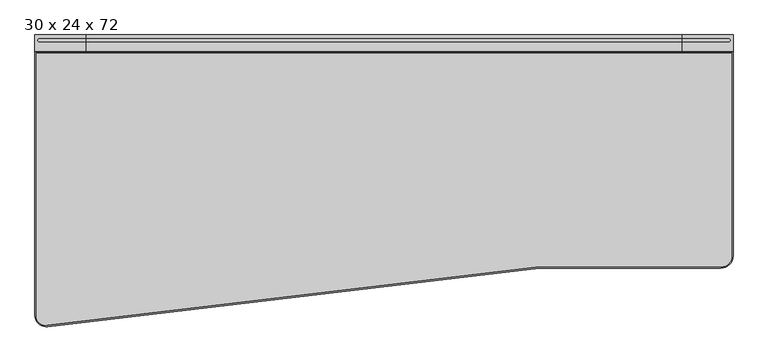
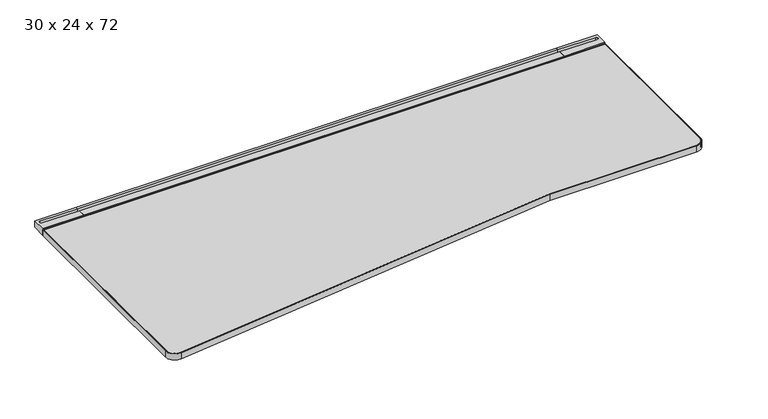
"""IFC4 building model written with IfcOpenShell, lengths in millimetres: furniture geometry, Steelcase - C Scape - Desking - Left Hand Transition : 30 x 24 x 72."""

from ifc_helpers import new_model, si_unit, point, frame, frame_2d, origin, place, context, project, spatial, polyline, circle_curve, trimmed, segment, composite_curve, outline, extrude, faceted_brep, source, transform, mapped, element, save
from ifc_brep_helpers import plane_surface, cylinder_surface, revolved_surface, advanced_brep


def furniture_30_x_24_x_72_7be18f01(model_context):
    return source(origin(), model_context, "Body", "SolidModel", [
        advanced_brep(
        [(134.6072876, -45.3135132, 703.3768), (134.6072876, -4.0331902, 703.3768), (134.6072876, -3.2278472, 705.1038636), (134.6072876, 0.0, 705.1038636), (134.6072876, 0.0, 725.932), (134.6072876, -8.5111084, 725.932), (134.6072876, -8.5111084, 713.486), (134.6072876, -19.3290527, 713.486), (134.6072876, -19.3290527, 725.932), (134.6072876, -42.7750923, 725.932), (134.6072876, -42.7750923, 722.4268341), (134.6072876, -45.3135132, 722.4268341), (1.5875, -45.3135132, 703.3768), (1.5875, -45.3135132, 722.4268341), (1.5875, -42.7750923, 722.4268341), (1.5875, -42.7750923, 725.932), (1.5875, 0.0, 725.932), (1.5875, 0.0, 705.1038636), (1.5875, -3.2278472, 705.1038636), (1.5875, -4.0331902, 703.3768), (13.3495728, -19.3290527, 725.932), (13.3495728, -8.5111084, 725.932), (13.3495728, -8.5111084, 713.486), (13.3495728, -19.3290527, 713.486)],
        [
            (0, 1),
            (1, 2),
            (2, 3),
            (3, 4),
            (4, 5),
            (5, 6),
            (6, 7),
            (7, 8),
            (8, 9),
            (9, 10),
            (10, 11),
            (11, 0),
            (12, 13),
            (13, 14),
            (14, 15),
            (15, 16),
            (16, 17),
            (17, 18),
            (18, 19),
            (19, 12),
            (0, 12),
            (19, 1),
            (18, 2),
            (17, 3),
            (16, 4),
            (15, 9),
            (8, 20),
            (20, 21, circle_curve(frame((13.3495728, -13.9200806, 725.932), z_axis=(0.0, 0.0, -1.0), x_axis=(1.0, 0.0, 0.0)), 5.4089722)),
            (21, 5),
            (14, 10),
            (13, 11),
            (6, 22),
            (22, 23, circle_curve(frame((13.3495728, -13.9200806, 713.486), z_axis=(0.0, 0.0, 1.0), x_axis=(1.0, 0.0, 0.0)), 5.4089722)),
            (23, 7),
            (21, 22),
            (20, 23),
        ],
        [
            plane_surface(frame((134.6072876, -45.3135132, 703.3768), z_axis=(1.0, 0.0, 0.0), x_axis=(0.0, 1.0, 0.0))),
            plane_surface(frame((1.5875, -45.3135132, 703.3768), z_axis=(-1.0, 0.0, 0.0), x_axis=(0.0, -1.0, 0.0))),
            plane_surface(frame((134.6072876, -45.3135132, 703.3768), z_axis=(0.0, 0.0, -1.0), x_axis=(-1.0, 0.0, 0.0))),
            plane_surface(frame((134.6072876, -4.0331902, 703.3768), z_axis=(0.0, 0.9063077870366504, -0.4226182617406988), x_axis=(-1.0, 0.0, 0.0))),
            plane_surface(frame((134.6072876, -3.2278472, 705.1038636), z_axis=(0.0, 0.0, -1.0), x_axis=(-1.0, 0.0, 0.0))),
            plane_surface(frame((134.6072876, 0.0, 705.1038636), z_axis=(0.0, 1.0, 0.0), x_axis=(-1.0, 0.0, 0.0))),
            plane_surface(frame((134.6072876, 0.0, 725.932), z_axis=(0.0, 0.0, 1.0), x_axis=(-1.0, 0.0, 0.0))),
            plane_surface(frame((134.6072876, -42.7750923, 725.932), z_axis=(0.0, -1.0, 0.0), x_axis=(-1.0, 0.0, 0.0))),
            plane_surface(frame((134.6072876, -42.7750923, 722.4268341), z_axis=(0.0, 0.0, 1.0), x_axis=(-1.0, 0.0, 0.0))),
            plane_surface(frame((134.6072876, -45.3135132, 722.4268341), z_axis=(0.0, -1.0, 0.0), x_axis=(-1.0, 0.0, 0.0))),
            plane_surface(frame((13.3495728, -8.5111084, 713.486), z_axis=(0.0, 0.0, 1.0), x_axis=(1.0, 0.0, 0.0))),
            plane_surface(frame((134.6072876, -8.5111084, 731.2180541), z_axis=(0.0, -1.0, 0.0), x_axis=(0.0, 0.0, -1.0))),
            revolved_surface(polyline([(18.758545, -13.9200806, 725.932), (18.758545, -13.9200806, 713.486)]), (13.3495728, -13.9200806, 713.486), (0.0, 0.0, 1.0)),
            plane_surface(frame((13.3495728, -19.3290527, 731.2180541), z_axis=(0.0, 1.0, 0.0), x_axis=(0.0, 0.0, -1.0))),
        ],
        [
            (0, [[1, 2, 3, 4, 5, 6, 7, 8, 9, 10, 11, 12]]),
            (1, [[13, 14, 15, 16, 17, 18, 19, 20]]),
            (2, [[-1, 21, -20, 22]]),
            (3, [[-2, -22, -19, 23]]),
            (4, [[-3, -23, -18, 24]]),
            (5, [[-4, -24, -17, 25]]),
            (6, [[-16, 26, -9, 27, 28, 29, -5, -25]]),
            (7, [[-10, -26, -15, 30]]),
            (8, [[-11, -30, -14, 31]]),
            (9, [[-12, -31, -13, -21]]),
            (10, [[32, 33, 34, -7]]),
            (11, [[-32, -6, -29, 35]]),
            (12, [[-33, -35, -28, 36]]),
            (13, [[-34, -36, -27, -8]]),
        ],
    ),
        faceted_brep([(20.6382632, -565.0752923, 700.7093833), (34.9133728, -565.0752923, 693.4200291), (116.3525879, -565.0752923, 693.4200291), (118.9731301, -565.0752923, 679.3263935), (134.6072876, -565.0752923, 679.3263935), (134.6072876, -565.0752923, 703.3768), (20.6382632, -565.0752923, 703.3768), (20.6382632, -4.0331902, 700.7093833), (20.6382632, -4.0331902, 703.3768), (134.6072876, -4.0331902, 703.3768), (134.6072876, -4.0331902, 629.3866), (128.2588347, -4.0331902, 629.3866), (116.3525879, -4.0331902, 693.4200291), (34.9133728, -4.0331902, 693.4200291), (128.2588347, -364.1172546, 629.3866), (121.1384051, -376.5599397, 667.6812472), (134.6072876, -364.1172546, 629.3866), (134.6072876, -376.5599397, 667.6812472)], [[[0, 1, 2, 3, 4, 5, 6]], [[7, 8, 9, 10, 11, 12, 13]], [[1, 0, 7, 13]], [[2, 1, 13, 12]], [[12, 11, 14, 15, 3, 2]], [[11, 10, 16, 14]], [[10, 9, 5, 4, 17, 16]], [[6, 5, 9, 8]], [[0, 6, 8, 7]], [[15, 17, 4, 3]], [[17, 15, 14, 16]]]),
        extrude(outline(composite_curve([segment(polyline([(-293.5216187, 657.3775839), (-559.0022133, 680.1371551)]), True, "CONTINUOUS"), segment(trimmed(circle_curve(frame_2d((-558.7581271, 682.9843154)), 2.8576039), [point((-559.0022133, 680.1371551))], [point((-561.5383043, 682.3236226))], False, "CARTESIAN"), True, "CONTINUOUS"), segment(polyline([(-561.5383043, 682.3236226), (-566.0887542, 701.4717905), (-557.8334441, 701.4717905), (-557.8334441, 703.3768), (-442.6683806, 703.3768), (-442.6683806, 696.3917953), (-318.2108611, 696.3917953), (-318.2108611, 703.3768), (-293.5216187, 703.3768), (-293.5216187, 657.3775839)]), True, "CONTINUOUS")], self_intersect=False)), frame((877.824, 0.0, 0.0), z_axis=(1.0, 0.0, 0.0), x_axis=(0.0, 1.0, 0.0)), (0.0, 0.0, 1.0), 73.152),
        advanced_brep(
        [(1694.1927124, -45.3135132, 703.3768), (1694.1927124, -45.3135132, 722.4268341), (1694.1927124, -42.7750923, 722.4268341), (1694.1927124, -42.7750923, 725.932), (1694.1927124, -19.3290527, 725.932), (1694.1927124, -19.3290527, 713.486), (1694.1927124, -8.5111084, 713.486), (1694.1927124, -8.5111084, 725.932), (1694.1927124, 0.0, 725.932), (1694.1927124, 0.0, 705.1038636), (1694.1927124, -3.2278472, 705.1038636), (1694.1927124, -4.0331902, 703.3768), (1827.2125, -45.3135132, 703.3768), (1827.2125, -4.0331902, 703.3768), (1827.2125, -3.2278472, 705.1038636), (1827.2125, 0.0, 705.1038636), (1827.2125, 0.0, 725.932), (1827.2125, -42.7750923, 725.932), (1827.2125, -42.7750923, 722.4268341), (1827.2125, -45.3135132, 722.4268341), (1815.4504272, -8.5111084, 725.932), (1815.4504272, -19.3290527, 725.932), (1815.4504272, -19.3290527, 713.486), (1815.4504272, -8.5111084, 713.486)],
        [
            (0, 1),
            (1, 2),
            (2, 3),
            (3, 4),
            (4, 5),
            (5, 6),
            (6, 7),
            (7, 8),
            (8, 9),
            (9, 10),
            (10, 11),
            (11, 0),
            (12, 13),
            (13, 14),
            (14, 15),
            (15, 16),
            (16, 17),
            (17, 18),
            (18, 19),
            (19, 12),
            (11, 13),
            (12, 0),
            (10, 14),
            (9, 15),
            (8, 16),
            (7, 20),
            (20, 21, circle_curve(frame((1815.4504272, -13.9200806, 725.932), z_axis=(0.0, 0.0, -1.0), x_axis=(-1.0, 0.0, 0.0)), 5.4089722)),
            (21, 4),
            (3, 17),
            (2, 18),
            (1, 19),
            (5, 22),
            (22, 23, circle_curve(frame((1815.4504272, -13.9200806, 713.486), z_axis=(0.0, 0.0, 1.0), x_axis=(-1.0, 0.0, 0.0)), 5.4089722)),
            (23, 6),
            (23, 20),
            (22, 21),
        ],
        [
            plane_surface(frame((1694.1927124, -45.3135132, 703.3768), z_axis=(-1.0, 0.0, 0.0), x_axis=(0.0, 1.0, 0.0))),
            plane_surface(frame((1827.2125, -45.3135132, 703.3768), z_axis=(1.0, 0.0, 0.0), x_axis=(0.0, -1.0, 0.0))),
            plane_surface(frame((1694.1927124, -45.3135132, 703.3768), z_axis=(0.0, 0.0, -1.0), x_axis=(1.0, 0.0, 0.0))),
            plane_surface(frame((1694.1927124, -4.0331902, 703.3768), z_axis=(0.0, 0.9063077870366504, -0.4226182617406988), x_axis=(1.0, 0.0, 0.0))),
            plane_surface(frame((1694.1927124, -3.2278472, 705.1038636), z_axis=(0.0, 0.0, -1.0), x_axis=(1.0, 0.0, 0.0))),
            plane_surface(frame((1694.1927124, 0.0, 705.1038636), z_axis=(0.0, 1.0, 0.0), x_axis=(1.0, 0.0, 0.0))),
            plane_surface(frame((1694.1927124, 0.0, 725.932), z_axis=(0.0, 0.0, 1.0), x_axis=(1.0, 0.0, 0.0))),
            plane_surface(frame((1694.1927124, -42.7750923, 725.932), z_axis=(0.0, -1.0, 0.0), x_axis=(1.0, 0.0, 0.0))),
            plane_surface(frame((1694.1927124, -42.7750923, 722.4268341), z_axis=(0.0, 0.0, 1.0), x_axis=(1.0, 0.0, 0.0))),
            plane_surface(frame((1694.1927124, -45.3135132, 722.4268341), z_axis=(0.0, -1.0, 0.0), x_axis=(1.0, 0.0, 0.0))),
            plane_surface(frame((1815.4504272, -8.5111084, 713.486), z_axis=(0.0, 0.0, 1.0), x_axis=(-1.0, 0.0, 0.0))),
            plane_surface(frame((1694.1927124, -8.5111084, 731.2180541), z_axis=(0.0, -1.0, 0.0), x_axis=(0.0, 0.0, -1.0))),
            revolved_surface(polyline([(1810.0414549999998, -13.9200806, 725.932), (1810.0414549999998, -13.9200806, 713.486)]), (1815.4504272, -13.9200806, 713.486), (0.0, 0.0, 1.0)),
            plane_surface(frame((1815.4504272, -19.3290527, 731.2180541), z_axis=(0.0, 1.0, 0.0), x_axis=(0.0, 0.0, -1.0))),
        ],
        [
            (0, [[1, 2, 3, 4, 5, 6, 7, 8, 9, 10, 11, 12]]),
            (1, [[13, 14, 15, 16, 17, 18, 19, 20]]),
            (2, [[21, -13, 22, -12]]),
            (3, [[23, -14, -21, -11]]),
            (4, [[24, -15, -23, -10]]),
            (5, [[25, -16, -24, -9]]),
            (6, [[-25, -8, 26, 27, 28, -4, 29, -17]]),
            (7, [[30, -18, -29, -3]]),
            (8, [[31, -19, -30, -2]]),
            (9, [[-22, -20, -31, -1]]),
            (10, [[-6, 32, 33, 34]]),
            (11, [[35, -26, -7, -34]]),
            (12, [[36, -27, -35, -33]]),
            (13, [[-5, -28, -36, -32]]),
        ],
    ),
        faceted_brep([(1808.1617368, -565.0752923, 700.7093833), (1808.1617368, -565.0752923, 703.3768), (1694.1927124, -565.0752923, 703.3768), (1694.1927124, -565.0752923, 679.3263935), (1709.8268699, -565.0752923, 679.3263935), (1712.4474121, -565.0752923, 693.4200291), (1793.8866272, -565.0752923, 693.4200291), (1808.1617368, -4.0331902, 700.7093833), (1793.8866272, -4.0331902, 693.4200291), (1712.4474121, -4.0331902, 693.4200291), (1700.5411653, -4.0331902, 629.3866), (1694.1927124, -4.0331902, 629.3866), (1694.1927124, -4.0331902, 703.3768), (1808.1617368, -4.0331902, 703.3768), (1707.6615949, -376.5599397, 667.6812472), (1700.5411653, -364.1172546, 629.3866), (1694.1927124, -364.1172546, 629.3866), (1694.1927124, -376.5599397, 667.6812472)], [[[0, 1, 2, 3, 4, 5, 6]], [[7, 8, 9, 10, 11, 12, 13]], [[6, 8, 7, 0]], [[5, 9, 8, 6]], [[9, 5, 4, 14, 15, 10]], [[10, 15, 16, 11]], [[11, 16, 17, 3, 2, 12]], [[1, 13, 12, 2]], [[0, 7, 13, 1]], [[14, 4, 3, 17]], [[17, 16, 15, 14]]]),
        extrude(outline(polyline([(-8.5111084, 725.932), (0.0, 725.932), (0.0, 705.1038636), (-3.2278472, 705.1038636), (-4.0331902, 703.3768), (-45.3135132, 703.3768), (-45.3135132, 722.4268341), (-42.7750923, 722.4268341), (-42.7750923, 725.932), (-19.3290527, 725.932), (-19.3290527, 713.486), (-8.5111084, 713.486), (-8.5111084, 725.932)])), frame((134.6072876, 0.0, 0.0), z_axis=(1.0, 0.0, 0.0), x_axis=(0.0, 1.0, 0.0)), (0.0, 0.0, 1.0), 1559.5854248),
        extrude(outline(polyline([(1694.1927124, -4.0331902), (1694.1927124, -293.5216187), (134.6072876, -293.5216187), (134.6072876, -4.0331902), (1694.1927124, -4.0331902)])), frame((0.0, 0.0, 629.3866), z_axis=(0.0, 0.0, 1.0), x_axis=(1.0, 0.0, 0.0)), (0.0, 0.0, 1.0), 73.9902),
        advanced_brep(
        [(1824.1645, -48.3660689, 723.9), (4.6355, -48.3660689, 723.9), (4.6355, -734.677348, 723.9), (33.9511745, -759.7737122, 723.9), (1320.7997595, -606.5490234, 723.9), (1795.4625, -606.5490234, 723.9), (1824.1615234, -577.85, 723.9), (1824.1645, -48.3660689, 703.3768), (1824.1645, -577.85, 703.3768), (1795.4625, -606.5490234, 703.3768), (1320.7997595, -606.5490234, 703.3768), (33.9511745, -759.7737122, 703.3768), (4.6355, -734.677348, 703.3768), (4.6355, -48.3660689, 703.3768)],
        [
            (0, 1),
            (1, 2),
            (2, 3, circle_curve(frame((30.0355, -734.677348, 723.9), z_axis=(0.0, 0.0, 1.0), x_axis=(-1.0, 0.0, 0.0)), 25.4)),
            (3, 4),
            (4, 5),
            (5, 6, circle_curve(frame((1795.4625, -577.85, 723.9), z_axis=(0.0, 0.0, 1.0), x_axis=(-1.0, 0.0, 0.0)), 28.6990234)),
            (6, 0),
            (7, 8),
            (8, 9, circle_curve(frame((1795.4625, -577.85, 703.3768), z_axis=(0.0, 0.0, -1.0), x_axis=(-1.0, 0.0, 0.0)), 28.6990234)),
            (9, 10),
            (10, 11),
            (11, 12, circle_curve(frame((30.0355, -734.677348, 703.3768), z_axis=(0.0, 0.0, -1.0), x_axis=(-1.0, 0.0, 0.0)), 25.4)),
            (12, 13),
            (13, 7),
            (0, 7),
            (13, 1),
            (12, 2),
            (11, 3),
            (10, 4),
            (9, 5),
            (8, 6),
        ],
        [
            plane_surface(frame((4.6355, -48.3660689, 723.9), z_axis=(0.0, 0.0, 1.0), x_axis=(-1.0, 0.0, 0.0))),
            plane_surface(frame((4.6355, -48.3660689, 703.3768), z_axis=(0.0, 0.0, -1.0), x_axis=(1.0, 0.0, 0.0))),
            plane_surface(frame((1824.1645, -48.3660689, 723.9), z_axis=(0.0, 1.0, 0.0), x_axis=(0.0, 0.0, -1.0))),
            plane_surface(frame((4.6355, -48.3660689, 723.9), z_axis=(-1.0, 0.0, 0.0), x_axis=(0.0, 0.0, -1.0))),
            cylinder_surface(frame((30.0355, -734.677348, 703.3768), z_axis=(0.0, 0.0, 1.0), x_axis=(-1.0, 0.0, 0.0)), 25.4),
            plane_surface(frame((33.9511745, -759.7737122, 723.9), z_axis=(0.11823451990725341, -0.9929856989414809, 0.0), x_axis=(0.0, 0.0, -1.0))),
            plane_surface(frame((1320.7997595, -606.5490234, 723.9), z_axis=(0.0, -1.0, 0.0), x_axis=(0.0, 0.0, -1.0))),
            cylinder_surface(frame((1795.4625, -577.85, 703.3768), z_axis=(0.0, 0.0, 1.0), x_axis=(-1.0, 0.0, 0.0)), 28.6990234),
            plane_surface(frame((1824.1645, -577.85, 723.9), z_axis=(1.0, 0.0, 0.0), x_axis=(0.0, 0.0, -1.0))),
        ],
        [
            (0, [[1, 2, 3, 4, 5, 6, 7]]),
            (1, [[8, 9, 10, 11, 12, 13, 14]]),
            (2, [[-1, 15, -14, 16]]),
            (3, [[-2, -16, -13, 17]]),
            (4, [[-3, -17, -12, 18]]),
            (5, [[-4, -18, -11, 19]]),
            (6, [[-5, -19, -10, 20]]),
            (7, [[-6, -20, -9, 21]]),
            (8, [[-7, -21, -8, -15]]),
        ],
    ),
        advanced_brep(
        [(4.6384766, -48.3660689, 703.3768), (4.6384766, -48.3660689, 723.9), (4.6384766, -733.2875177, 723.9), (4.6384766, -733.2875177, 703.3768), (1.5875, -45.3150923, 723.9), (1.5875, -45.3150923, 703.3768), (1.5875, -733.2875177, 703.3768), (1.5875, -733.2875177, 723.9), (35.2904734, -759.5278717, 703.3768), (35.2904734, -759.5278717, 723.9), (35.7608132, -762.5423763, 723.9), (35.7608132, -762.5423763, 703.3768), (1320.6190784, -606.5490234, 723.9), (1320.6190784, -606.5490234, 703.3768), (1320.8, -609.6, 703.3768), (1827.2125, -45.3150923, 703.3768), (1827.2125, -577.85, 703.3768), (1795.4625, -609.6, 703.3768), (1795.4625, -606.5490234, 703.3768), (1824.1615234, -577.85, 703.3768), (1824.1615234, -48.3660689, 703.3768), (1320.8, -609.6, 723.9), (1795.4625, -609.6, 723.9), (1827.2125, -577.85, 723.9), (1827.2125, -45.3150923, 723.9), (1824.1615234, -48.3660689, 723.9), (1824.1615234, -577.85, 723.9), (1795.4625, -606.5490234, 723.9)],
        [
            (0, 1),
            (1, 2),
            (2, 3),
            (3, 0),
            (4, 5),
            (5, 6),
            (6, 7),
            (7, 4),
            (8, 3, circle_curve(frame((31.1963073, -733.2875177, 703.3768), z_axis=(0.0, 0.0, -1.0), x_axis=(-1.0, 0.0, 0.0)), 26.5578307)),
            (2, 9, circle_curve(frame((31.1963073, -733.2875177, 723.9), z_axis=(0.0, 0.0, 1.0), x_axis=(-1.0, 0.0, 0.0)), 26.5578307)),
            (9, 8),
            (10, 7, circle_curve(frame((31.1963073, -733.2875177, 723.9), z_axis=(0.0, 0.0, -1.0), x_axis=(-1.0, 0.0, 0.0)), 29.6088073)),
            (6, 11, circle_curve(frame((31.1963073, -733.2875177, 703.3768), z_axis=(0.0, 0.0, 1.0), x_axis=(-1.0, 0.0, 0.0)), 29.6088073)),
            (11, 10),
            (9, 12),
            (12, 13),
            (13, 8),
            (14, 11),
            (5, 15),
            (15, 16),
            (16, 17, circle_curve(frame((1795.4625, -577.85, 703.3768), z_axis=(0.0, 0.0, -1.0), x_axis=(0.0, -1.0, 0.0)), 31.75)),
            (17, 14),
            (13, 18),
            (18, 19, circle_curve(frame((1795.4625, -577.85, 703.3768), z_axis=(0.0, 0.0, 1.0), x_axis=(0.0, -1.0, 0.0)), 28.6990234)),
            (19, 20),
            (20, 0),
            (14, 21),
            (21, 10),
            (21, 22),
            (22, 23, circle_curve(frame((1795.4625, -577.85, 723.9), z_axis=(0.0, 0.0, 1.0), x_axis=(0.0, -1.0, 0.0)), 31.75)),
            (23, 24),
            (24, 4),
            (1, 25),
            (25, 26),
            (26, 27, circle_curve(frame((1795.4625, -577.85, 723.9), z_axis=(0.0, 0.0, -1.0), x_axis=(0.0, -1.0, 0.0)), 28.6990234)),
            (27, 12),
            (27, 18),
            (17, 22),
            (26, 19),
            (16, 23),
            (25, 20),
            (15, 24),
        ],
        [
            plane_surface(frame((4.6384766, -48.3660689, 723.9), z_axis=(1.0, 0.0, 0.0), x_axis=(0.0, -1.0, 0.0))),
            plane_surface(frame((1.5875, -45.3150923, 703.3768), z_axis=(-1.0, 0.0, 0.0), x_axis=(0.0, -1.0, 0.0))),
            revolved_surface(polyline([(4.638476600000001, -733.2875177, 723.9), (4.638476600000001, -733.2875177, 703.3768)]), (31.1963073, -733.2875177, 0.0), (0.0, 0.0, 1.0)),
            cylinder_surface(frame((31.1963073, -733.2875177, 0.0), z_axis=(0.0, 0.0, 1.0), x_axis=(-1.0, 0.0, 0.0)), 29.6088073),
            plane_surface(frame((35.2901631, -759.5258826, 723.9), z_axis=(-0.11818357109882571, 0.9929917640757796, 0.0), x_axis=(0.9929917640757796, 0.11818357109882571, 0.0))),
            plane_surface(frame((35.2901631, -759.5258826, 703.3768), z_axis=(0.0, 0.0, -1.0), x_axis=(0.9929917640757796, 0.11818357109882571, 0.0))),
            plane_surface(frame((35.7608132, -762.5423763, 703.3768), z_axis=(0.11818357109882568, -0.9929917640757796, 0.0), x_axis=(0.9929917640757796, 0.11818357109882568, 0.0))),
            plane_surface(frame((35.7608132, -762.5423763, 723.9), z_axis=(0.0, 0.0, 1.0), x_axis=(0.9929917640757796, 0.11818357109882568, 0.0))),
            plane_surface(frame((1320.6190784, -606.5490234, 723.9), z_axis=(0.0, 1.0, 0.0), x_axis=(1.0, 0.0, 0.0))),
            plane_surface(frame((1320.8, -609.6, 703.3768), z_axis=(0.0, -1.0, 0.0), x_axis=(1.0, 0.0, 0.0))),
            revolved_surface(polyline([(1795.4625, -606.5490234, 723.9), (1795.4625, -606.5490234, 703.3768)]), (1795.4625, -577.85, 0.0), (0.0, 0.0, 1.0)),
            cylinder_surface(frame((1795.4625, -577.85, 0.0), z_axis=(0.0, 0.0, 1.0), x_axis=(0.0, -1.0, 0.0)), 31.75),
            plane_surface(frame((1824.1615234, -577.85, 723.9), z_axis=(-1.0, 0.0, 0.0), x_axis=(0.0, 1.0, 0.0))),
            plane_surface(frame((1827.2125, -577.85, 703.3768), z_axis=(1.0, 0.0, 0.0), x_axis=(0.0, 1.0, 0.0))),
            plane_surface(frame((1824.1615234, -48.3660689, 723.9), z_axis=(0.0, -1.0, 0.0), x_axis=(-1.0, 0.0, 0.0))),
            plane_surface(frame((1827.2125, -45.3150923, 703.3768), z_axis=(0.0, 1.0, 0.0), x_axis=(-1.0, 0.0, 0.0))),
        ],
        [
            (0, [[1, 2, 3, 4]]),
            (1, [[5, 6, 7, 8]]),
            (2, [[9, -3, 10, 11]]),
            (3, [[12, -7, 13, 14]]),
            (4, [[-11, 15, 16, 17]]),
            (5, [[18, -13, -6, 19, 20, 21, 22], [-4, -9, -17, 23, 24, 25, 26]]),
            (6, [[-14, -18, 27, 28]]),
            (7, [[-8, -12, -28, 29, 30, 31, 32], [-15, -10, -2, 33, 34, 35, 36]]),
            (8, [[-16, -36, 37, -23]]),
            (9, [[-27, -22, 38, -29]]),
            (10, [[-24, -37, -35, 39]]),
            (11, [[-30, -38, -21, 40]]),
            (12, [[-39, -34, 41, -25]]),
            (13, [[-40, -20, 42, -31]]),
            (14, [[-41, -33, -1, -26]]),
            (15, [[-42, -19, -5, -32]]),
        ],
    ),
    ])


if __name__ == "__main__":
    model = new_model("IFC4")
    model_context = context("Model", 3, world=origin())
    ifc_project = project(units=[si_unit("LENGTHUNIT", "METRE", prefix="MILLI")], contexts=[model_context])
    site = spatial("IfcSite", under=ifc_project)
    building = spatial("IfcBuilding", under=site)
    placement = place(None, origin())
    furniture_30_x_24_x_72_shape = furniture_30_x_24_x_72_7be18f01(model_context)
    element("IfcFurniture", 1, ObjectType="Steelcase - C Scape - Desking - Left Hand Transition : 30 x 24 x 72", at=placement, inside=building, context=model_context, shape_type="MappedRepresentation", body=[
        mapped(furniture_30_x_24_x_72_shape, transform((0.0, 0.0, 0.0), x_axis=(1.0, 0.0, 0.0), y_axis=(0.0, 1.0, 0.0), z_axis=(0.0, 0.0, 1.0))),
    ])
    save(model, "model.ifc")
